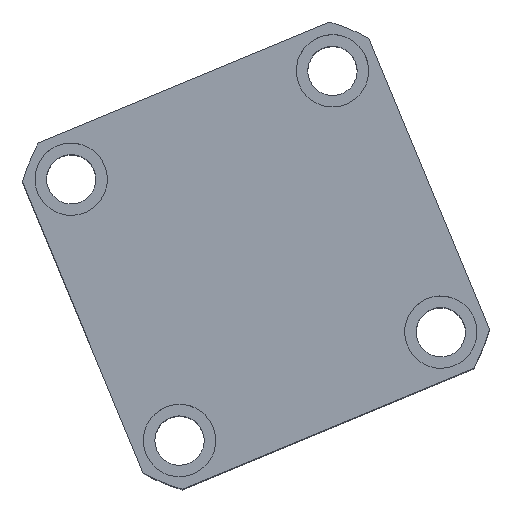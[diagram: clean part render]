
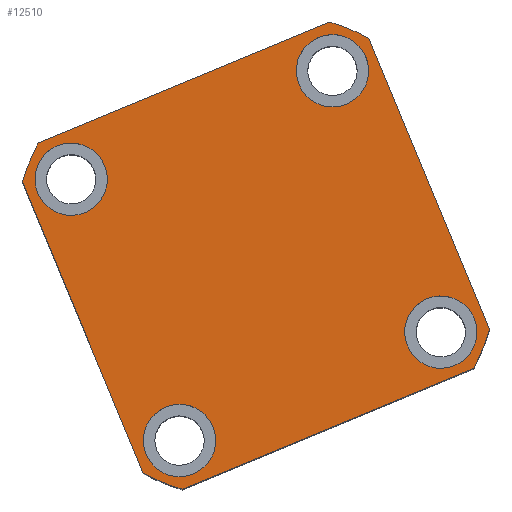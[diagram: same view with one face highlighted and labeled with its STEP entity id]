
A CAD part, top view. The second image highlights one B-rep face of the part: STEP entity #12510.
In plain terms, the highlighted planar face has unit normal (0, 0, 1) as drawn and (0, 0, -1) by its records, which use the part's own axes.
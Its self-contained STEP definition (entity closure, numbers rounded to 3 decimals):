
#115 = CIRCLE ( 'NONE', #8672, 11. ) ;
#324 = ORIENTED_EDGE ( 'NONE', *, *, #17019, .F. ) ;
#453 = EDGE_LOOP ( 'NONE', ( #11440, #15680 ) ) ;
#524 = DIRECTION ( 'NONE',  ( 0., 0., 1. ) ) ;
#654 = EDGE_CURVE ( 'NONE', #7576, #14022, #7299, .T. ) ;
#906 = DIRECTION ( 'NONE',  ( 0., 0., -1. ) ) ;
#1287 = CARTESIAN_POINT ( 'NONE',  ( 0., 0., 0. ) ) ;
#1335 = CIRCLE ( 'NONE', #9323, 11. ) ;
#1363 = AXIS2_PLACEMENT_3D ( 'NONE', #10357, #906, #11952 ) ;
#1430 = CARTESIAN_POINT ( 'NONE',  ( -57., 47.971, 0. ) ) ;
#1638 = CARTESIAN_POINT ( 'NONE',  ( 43., 43., 0. ) ) ;
#1687 = CARTESIAN_POINT ( 'NONE',  ( 43., -43., 0. ) ) ;
#2112 = EDGE_CURVE ( 'NONE', #6067, #19175, #16237, .T. ) ;
#2243 = CIRCLE ( 'NONE', #1363, 11. ) ;
#2325 = VERTEX_POINT ( 'NONE', #16703 ) ;
#2437 = FACE_BOUND ( 'NONE', #4023, .T. ) ;
#2460 = CARTESIAN_POINT ( 'NONE',  ( -32., -43., 0. ) ) ;
#2527 = DIRECTION ( 'NONE',  ( 0., 0., 1. ) ) ;
#2744 = CARTESIAN_POINT ( 'NONE',  ( -54., -43., 0. ) ) ;
#2876 = DIRECTION ( 'NONE',  ( 1., 0., 0. ) ) ;
#2985 = EDGE_CURVE ( 'NONE', #19175, #6067, #115, .T. ) ;
#3093 = EDGE_LOOP ( 'NONE', ( #6754, #15210 ) ) ;
#3126 = VECTOR ( 'NONE', #4774, 1000. ) ;
#3208 = DIRECTION ( 'NONE',  ( -1., 0., 0. ) ) ;
#3234 = DIRECTION ( 'NONE',  ( 0., 0., -1. ) ) ;
#3252 = DIRECTION ( 'NONE',  ( -1., 0., 0. ) ) ;
#3272 = CARTESIAN_POINT ( 'NONE',  ( 43., 43., 0. ) ) ;
#3453 = EDGE_CURVE ( 'NONE', #17859, #14943, #13978, .T. ) ;
#3525 = ORIENTED_EDGE ( 'NONE', *, *, #2985, .F. ) ;
#3555 = EDGE_CURVE ( 'NONE', #14943, #17859, #1335, .T. ) ;
#3662 = CARTESIAN_POINT ( 'NONE',  ( -32., 43., 0. ) ) ;
#4022 = ORIENTED_EDGE ( 'NONE', *, *, #17216, .F. ) ;
#4023 = EDGE_LOOP ( 'NONE', ( #19357, #7231 ) ) ;
#4054 = CARTESIAN_POINT ( 'NONE',  ( 47.971, 57., 0. ) ) ;
#4082 = LINE ( 'NONE', #4146, #7773 ) ;
#4146 = CARTESIAN_POINT ( 'NONE',  ( -57., -57., 0. ) ) ;
#4502 = ORIENTED_EDGE ( 'NONE', *, *, #7344, .F. ) ;
#4774 = DIRECTION ( 'NONE',  ( -1., 0., 0. ) ) ;
#4882 = DIRECTION ( 'NONE',  ( -1., 0., 0. ) ) ;
#4943 = DIRECTION ( 'NONE',  ( 0., -1., 0. ) ) ;
#5300 = CARTESIAN_POINT ( 'NONE',  ( 0., 0., 0. ) ) ;
#5323 = EDGE_CURVE ( 'NONE', #2325, #13593, #14434, .T. ) ;
#5646 = EDGE_CURVE ( 'NONE', #17036, #7576, #12390, .T. ) ;
#5744 = DIRECTION ( 'NONE',  ( 1., 0., 0. ) ) ;
#6067 = VERTEX_POINT ( 'NONE', #14418 ) ;
#6156 = AXIS2_PLACEMENT_3D ( 'NONE', #1638, #12712, #3208 ) ;
#6498 = DIRECTION ( 'NONE',  ( 0., 0., -1. ) ) ;
#6588 = CIRCLE ( 'NONE', #17374, 11. ) ;
#6666 = CIRCLE ( 'NONE', #8665, 11. ) ;
#6681 = CIRCLE ( 'NONE', #20401, 74.5 ) ;
#6696 = EDGE_CURVE ( 'NONE', #7553, #13524, #2243, .T. ) ;
#6754 = ORIENTED_EDGE ( 'NONE', *, *, #17458, .F. ) ;
#6882 = DIRECTION ( 'NONE',  ( 1., 0., 0. ) ) ;
#7008 = DIRECTION ( 'NONE',  ( 1., 0., 0. ) ) ;
#7109 = VERTEX_POINT ( 'NONE', #14135 ) ;
#7137 = FACE_BOUND ( 'NONE', #12991, .T. ) ;
#7231 = ORIENTED_EDGE ( 'NONE', *, *, #11828, .F. ) ;
#7272 = CARTESIAN_POINT ( 'NONE',  ( -43., -43., 0. ) ) ;
#7299 = CIRCLE ( 'NONE', #15058, 74.5 ) ;
#7344 = EDGE_CURVE ( 'NONE', #8973, #9634, #6681, .T. ) ;
#7457 = AXIS2_PLACEMENT_3D ( 'NONE', #1287, #18642, #2876 ) ;
#7553 = VERTEX_POINT ( 'NONE', #2460 ) ;
#7576 = VERTEX_POINT ( 'NONE', #18301 ) ;
#7718 = ORIENTED_EDGE ( 'NONE', *, *, #654, .F. ) ;
#7773 = VECTOR ( 'NONE', #5744, 1000. ) ;
#7825 = AXIS2_PLACEMENT_3D ( 'NONE', #16007, #6498, #17577 ) ;
#8163 = VECTOR ( 'NONE', #11812, 1000. ) ;
#8190 = DIRECTION ( 'NONE',  ( 0., 0., 1. ) ) ;
#8204 = VERTEX_POINT ( 'NONE', #19511 ) ;
#8217 = ORIENTED_EDGE ( 'NONE', *, *, #20031, .F. ) ;
#8449 = CARTESIAN_POINT ( 'NONE',  ( 54., 43., 0. ) ) ;
#8665 = AXIS2_PLACEMENT_3D ( 'NONE', #1687, #12765, #3252 ) ;
#8672 = AXIS2_PLACEMENT_3D ( 'NONE', #12745, #3234, #14369 ) ;
#8727 = ORIENTED_EDGE ( 'NONE', *, *, #16864, .F. ) ;
#8864 = DIRECTION ( 'NONE',  ( -1., 0., 0. ) ) ;
#8973 = VERTEX_POINT ( 'NONE', #18235 ) ;
#9256 = EDGE_LOOP ( 'NONE', ( #7718, #11939, #4022, #8217, #16672, #324, #4502, #8727 ) ) ;
#9323 = AXIS2_PLACEMENT_3D ( 'NONE', #3272, #14409, #4882 ) ;
#9634 = VERTEX_POINT ( 'NONE', #1430 ) ;
#10357 = CARTESIAN_POINT ( 'NONE',  ( -43., -43., 0. ) ) ;
#11332 = FACE_BOUND ( 'NONE', #3093, .T. ) ;
#11397 = VERTEX_POINT ( 'NONE', #11856 ) ;
#11440 = ORIENTED_EDGE ( 'NONE', *, *, #3453, .F. ) ;
#11741 = CARTESIAN_POINT ( 'NONE',  ( -43., 43., 0. ) ) ;
#11774 = DIRECTION ( 'NONE',  ( 0., 0., -1. ) ) ;
#11812 = DIRECTION ( 'NONE',  ( 0., 1., 0. ) ) ;
#11816 = DIRECTION ( 'NONE',  ( -1., 0., 0. ) ) ;
#11828 = EDGE_CURVE ( 'NONE', #13593, #2325, #6666, .T. ) ;
#11856 = CARTESIAN_POINT ( 'NONE',  ( -47.971, -57., 0. ) ) ;
#11939 = ORIENTED_EDGE ( 'NONE', *, *, #5646, .F. ) ;
#11952 = DIRECTION ( 'NONE',  ( -1., 0., 0. ) ) ;
#12019 = CARTESIAN_POINT ( 'NONE',  ( 0., 0., 0. ) ) ;
#12297 = CARTESIAN_POINT ( 'NONE',  ( 54., -43., 0. ) ) ;
#12333 = CIRCLE ( 'NONE', #19526, 74.5 ) ;
#12382 = EDGE_CURVE ( 'NONE', #7109, #11397, #12333, .T. ) ;
#12390 = LINE ( 'NONE', #13176, #8163 ) ;
#12510 = ADVANCED_FACE ( 'NONE', ( #11332, #2437, #15575, #7137, #19243 ), #20191, .F. ) ;
#12712 = DIRECTION ( 'NONE',  ( 0., 0., -1. ) ) ;
#12745 = CARTESIAN_POINT ( 'NONE',  ( -43., 43., 0. ) ) ;
#12765 = DIRECTION ( 'NONE',  ( 0., 0., -1. ) ) ;
#12860 = CARTESIAN_POINT ( 'NONE',  ( 57., -47.971, 0. ) ) ;
#12991 = EDGE_LOOP ( 'NONE', ( #19823, #3525 ) ) ;
#13176 = CARTESIAN_POINT ( 'NONE',  ( 57., 57., 0. ) ) ;
#13471 = CARTESIAN_POINT ( 'NONE',  ( 0., 0., 0. ) ) ;
#13524 = VERTEX_POINT ( 'NONE', #2744 ) ;
#13593 = VERTEX_POINT ( 'NONE', #12297 ) ;
#13649 = DIRECTION ( 'NONE',  ( 1., 0., 0. ) ) ;
#13978 = CIRCLE ( 'NONE', #6156, 11. ) ;
#14022 = VERTEX_POINT ( 'NONE', #4054 ) ;
#14135 = CARTESIAN_POINT ( 'NONE',  ( -57., -47.971, 0. ) ) ;
#14369 = DIRECTION ( 'NONE',  ( -1., 0., 0. ) ) ;
#14409 = DIRECTION ( 'NONE',  ( 0., 0., -1. ) ) ;
#14418 = CARTESIAN_POINT ( 'NONE',  ( -54., 43., 0. ) ) ;
#14434 = CIRCLE ( 'NONE', #7825, 11. ) ;
#14823 = LINE ( 'NONE', #15877, #3126 ) ;
#14943 = VERTEX_POINT ( 'NONE', #8449 ) ;
#15058 = AXIS2_PLACEMENT_3D ( 'NONE', #13471, #524, #7008 ) ;
#15210 = ORIENTED_EDGE ( 'NONE', *, *, #6696, .F. ) ;
#15523 = CIRCLE ( 'NONE', #18420, 74.5 ) ;
#15575 = FACE_BOUND ( 'NONE', #453, .T. ) ;
#15680 = ORIENTED_EDGE ( 'NONE', *, *, #3555, .F. ) ;
#15877 = CARTESIAN_POINT ( 'NONE',  ( -57., 57., 0. ) ) ;
#16007 = CARTESIAN_POINT ( 'NONE',  ( 43., -43., 0. ) ) ;
#16035 = CARTESIAN_POINT ( 'NONE',  ( -57., 57., 0. ) ) ;
#16237 = CIRCLE ( 'NONE', #16886, 11. ) ;
#16374 = DIRECTION ( 'NONE',  ( 0., 0., 1. ) ) ;
#16510 = LINE ( 'NONE', #16035, #16984 ) ;
#16647 = CARTESIAN_POINT ( 'NONE',  ( 32., 43., 0. ) ) ;
#16672 = ORIENTED_EDGE ( 'NONE', *, *, #12382, .F. ) ;
#16703 = CARTESIAN_POINT ( 'NONE',  ( 32., -43., 0. ) ) ;
#16864 = EDGE_CURVE ( 'NONE', #14022, #8973, #14823, .T. ) ;
#16886 = AXIS2_PLACEMENT_3D ( 'NONE', #11741, #11774, #11816 ) ;
#16984 = VECTOR ( 'NONE', #4943, 1000. ) ;
#17019 = EDGE_CURVE ( 'NONE', #9634, #7109, #16510, .T. ) ;
#17036 = VERTEX_POINT ( 'NONE', #12860 ) ;
#17216 = EDGE_CURVE ( 'NONE', #8204, #17036, #15523, .T. ) ;
#17374 = AXIS2_PLACEMENT_3D ( 'NONE', #7272, #18347, #8864 ) ;
#17458 = EDGE_CURVE ( 'NONE', #13524, #7553, #6588, .T. ) ;
#17577 = DIRECTION ( 'NONE',  ( -1., 0., 0. ) ) ;
#17701 = CARTESIAN_POINT ( 'NONE',  ( 0., 0., 0. ) ) ;
#17859 = VERTEX_POINT ( 'NONE', #16647 ) ;
#18235 = CARTESIAN_POINT ( 'NONE',  ( -47.971, 57., 0. ) ) ;
#18301 = CARTESIAN_POINT ( 'NONE',  ( 57., 47.971, 0. ) ) ;
#18347 = DIRECTION ( 'NONE',  ( 0., 0., -1. ) ) ;
#18420 = AXIS2_PLACEMENT_3D ( 'NONE', #5300, #16374, #6882 ) ;
#18642 = DIRECTION ( 'NONE',  ( 0., 0., 1. ) ) ;
#19175 = VERTEX_POINT ( 'NONE', #3662 ) ;
#19243 = FACE_OUTER_BOUND ( 'NONE', #9256, .T. ) ;
#19261 = DIRECTION ( 'NONE',  ( 1., 0., 0. ) ) ;
#19357 = ORIENTED_EDGE ( 'NONE', *, *, #5323, .F. ) ;
#19511 = CARTESIAN_POINT ( 'NONE',  ( 47.971, -57., 0. ) ) ;
#19526 = AXIS2_PLACEMENT_3D ( 'NONE', #12019, #2527, #13649 ) ;
#19823 = ORIENTED_EDGE ( 'NONE', *, *, #2112, .F. ) ;
#20031 = EDGE_CURVE ( 'NONE', #11397, #8204, #4082, .T. ) ;
#20191 = PLANE ( 'NONE',  #7457 ) ;
#20401 = AXIS2_PLACEMENT_3D ( 'NONE', #17701, #8190, #19261 ) ;
